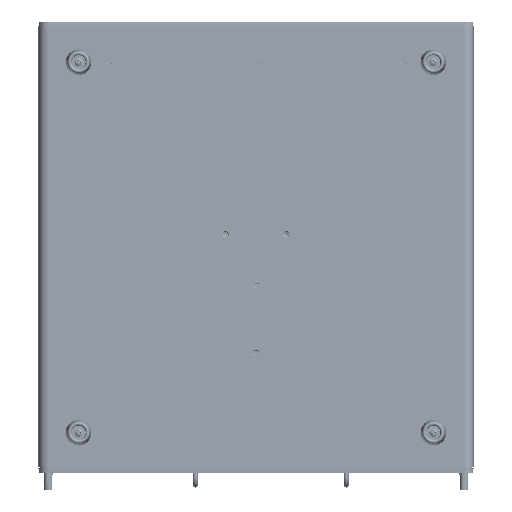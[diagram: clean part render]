
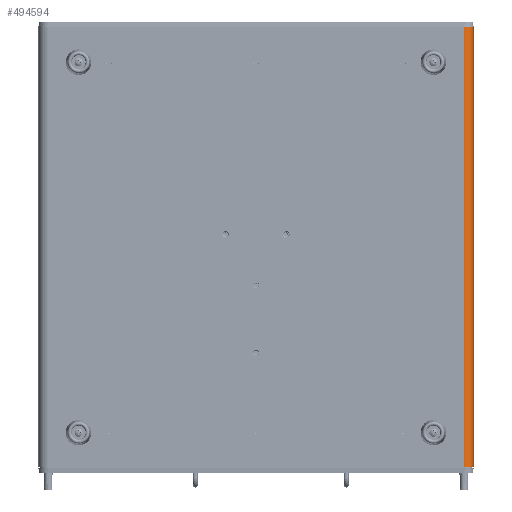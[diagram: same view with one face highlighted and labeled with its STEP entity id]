
A CAD part, front view. The second image highlights one B-rep face of the part: STEP entity #494594.
In plain terms, the highlighted cylindrical face has radius 10 mm (diameter 20 mm), a partial arc.
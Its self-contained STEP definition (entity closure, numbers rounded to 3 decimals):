
#77806=DIRECTION('',(0.,0.,-1.));
#77807=VECTOR('',#77806,448.8);
#77808=CARTESIAN_POINT('',(222.,-34.,224.4));
#77809=LINE('',#77808,#77807);
#77810=CARTESIAN_POINT('',(212.,-34.,-224.4));
#77811=DIRECTION('',(0.,0.,-1.));
#77812=DIRECTION('',(1.,0.,0.));
#77813=AXIS2_PLACEMENT_3D('',#77810,#77811,#77812);
#77815=DIRECTION('',(0.,0.,-1.));
#77816=VECTOR('',#77815,448.8);
#77817=CARTESIAN_POINT('',(212.,-44.,224.4));
#77818=LINE('',#77817,#77816);
#77819=CARTESIAN_POINT('',(212.,-34.,224.4));
#77820=DIRECTION('',(0.,0.,-1.));
#77821=DIRECTION('',(1.,0.,0.));
#77822=AXIS2_PLACEMENT_3D('',#77819,#77820,#77821);
#356735=CARTESIAN_POINT('',(212.,-44.,224.4));
#356737=VERTEX_POINT('',#356735);
#356738=CARTESIAN_POINT('',(212.,-44.,-224.4));
#356740=VERTEX_POINT('',#356738);
#356766=CARTESIAN_POINT('',(222.,-34.,-224.4));
#356768=VERTEX_POINT('',#356766);
#356771=CARTESIAN_POINT('',(222.,-34.,224.4));
#356773=VERTEX_POINT('',#356771);
#494581=CARTESIAN_POINT('',(212.,-34.,224.4));
#494582=DIRECTION('',(0.,0.,-1.));
#494583=DIRECTION('',(1.,0.,0.));
#494584=AXIS2_PLACEMENT_3D('',#494581,#494582,#494583);
#494585=CYLINDRICAL_SURFACE('',#494584,10.);
#494587=ORIENTED_EDGE('',*,*,#494586,.T.);
#494588=ORIENTED_EDGE('',*,*,#494564,.T.);
#494589=ORIENTED_EDGE('',*,*,#494424,.F.);
#494591=ORIENTED_EDGE('',*,*,#494590,.F.);
#494592=EDGE_LOOP('',(#494587,#494588,#494589,#494591));
#494593=FACE_OUTER_BOUND('',#494592,.F.);
#77814=CIRCLE('',#77813,10.);
#77823=CIRCLE('',#77822,10.);
#494424=EDGE_CURVE('',#356737,#356740,#77818,.T.);
#494564=EDGE_CURVE('',#356768,#356740,#77814,.T.);
#494586=EDGE_CURVE('',#356773,#356768,#77809,.T.);
#494590=EDGE_CURVE('',#356773,#356737,#77823,.T.);
#494594=ADVANCED_FACE('',(#494593),#494585,.T.);
